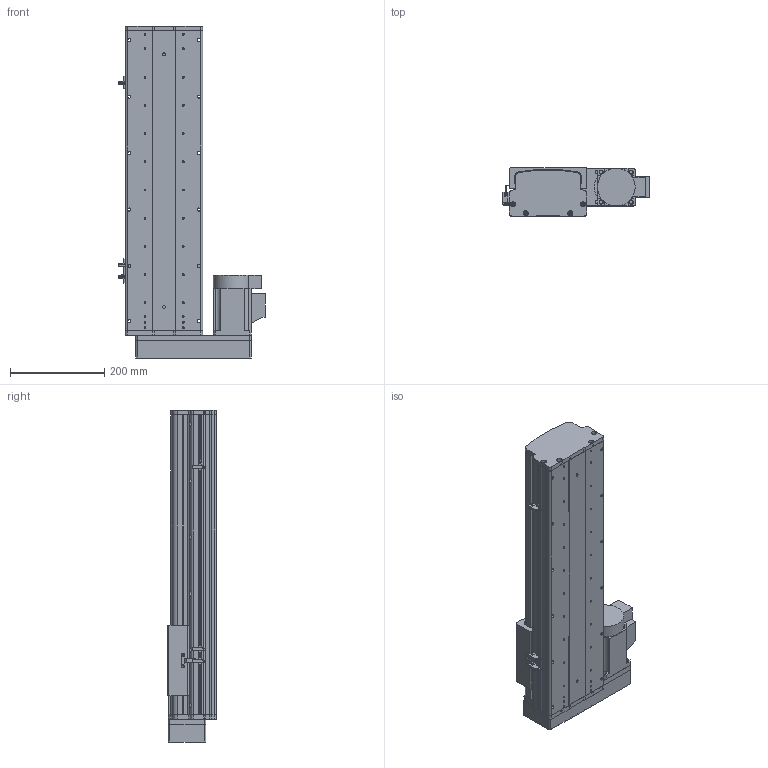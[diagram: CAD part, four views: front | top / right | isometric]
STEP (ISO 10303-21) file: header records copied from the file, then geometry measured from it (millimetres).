
FILE_DESCRIPTION (( 'STEP AP214' ), '1' );
FILE_NAME ('KSD165S-S400-ML-CM.STEP', '2017-10-17T08:46:45', ( '微软用户' ), ( '微软中国' ), 'SwSTEP 2.0', 'SolidWorks 2014', '' );
FILE_SCHEMA (( 'AUTOMOTIVE_DESIGN' ));
Length unit declared in the file: millimetre
Products named in the file (16): KSD165模组底板-400行程-最新; KSD165耀郪-佪裝-滅袉菜-3 -; KSD165耀郪-佪裝-滅袉菜-1; U倰嫖萇假蚾璃; KSD165耀郪-綴傷啣1; KSD165模组-丝杆滑动座-最新版; KSD165S-S400-ML-CM; 覜茼え68遵圉猾敕; U倰嫖萇EEㄜSX672; 165宽模组马达安装板连板左右折丝杆; 拸秶雄ん750W侜督萇儂; KSD165模组-丝杆上下左右折前端板; HTPA26S5M250-A-H8丝杆用(内径14）; HTPA26S5M250-A-H8 750W萇儂蚚; 165宽模组保护罩左右折; KSD165模组-防尘盖1-400行程-最新版
Assembly tree (19 placements, depth 2):
  KSD165S-S400-ML-CM
    KSD165模组-丝杆滑动座-最新版
    KSD165耀郪-綴傷啣1
    U倰嫖萇假蚾璃  x3
    KSD165耀郪-佪裝-滅袉菜-1
    KSD165耀郪-佪裝-滅袉菜-3 -
    KSD165模组底板-400行程-最新
    KSD165模组-防尘盖1-400行程-最新版
    165宽模组保护罩左右折
    HTPA26S5M250-A-H8 750W萇儂蚚
    HTPA26S5M250-A-H8丝杆用(内径14）
    KSD165模组-丝杆上下左右折前端板
    拸秶雄ん750W侜督萇儂
    165宽模组马达安装板连板左右折丝杆
    U倰嫖萇EEㄜSX672  x3
    覜茼え68遵圉猾敕
Bounding box: 311.2 x 104 x 705.5 mm (x, y, z)
Volume: 5161815.4 mm3; surface area: 1191372.8 mm2
Topology: 20 solids, 20 shells, 1773 faces, 5024 edges, 3283 vertices
Faces by surface type: cylinder 1135, plane 537, cone 101
Entity records: 57763 total; most frequent: CARTESIAN_POINT 12067, DIRECTION 9355, ORIENTED_EDGE 8736, EDGE_CURVE 4368, AXIS2_PLACEMENT_3D 3659, VERTEX_POINT 2875, CIRCLE 2084, LINE 2037
